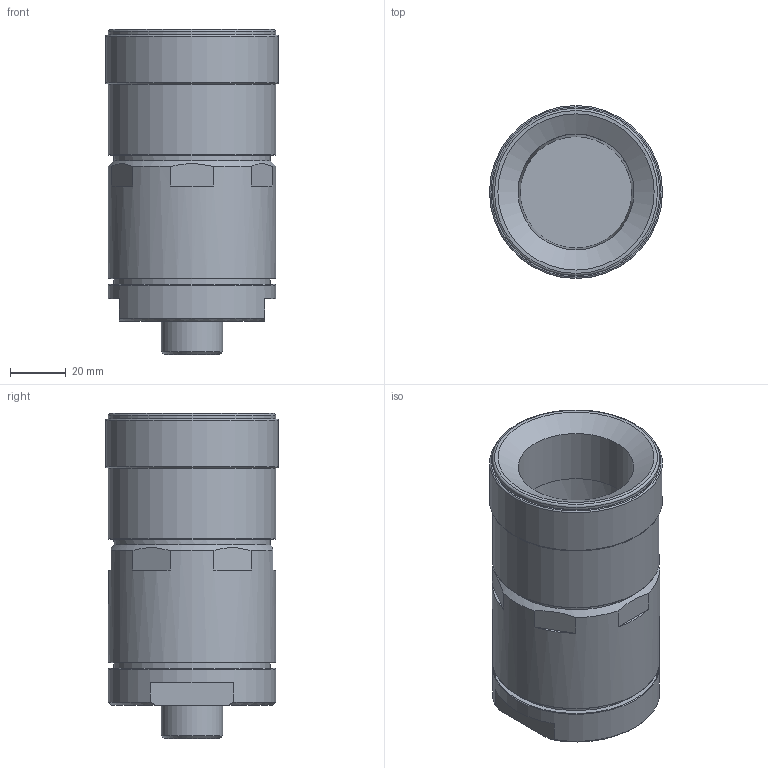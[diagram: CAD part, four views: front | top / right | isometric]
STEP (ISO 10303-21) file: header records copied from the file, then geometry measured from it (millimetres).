
FILE_DESCRIPTION(('STEP AP203'),'1');
FILE_NAME('SGC-40J-ZZ-T(.stp','2021-06-21T07:36:33',(' '),(' '),'Spatial InterOp 3D',' ',' ');
FILE_SCHEMA(('CONFIG_CONTROL_DESIGN'));
Length unit declared in the file: millimetre
Products named in the file (1): 1
Bounding box: 62 x 62 x 116.5 mm (x, y, z)
Volume: 167878.6 mm3; surface area: 40185.7 mm2
Topology: 1 solids, 1 shells, 55 faces, 116 edges, 73 vertices
Faces by surface type: plane 28, cylinder 12, cone 10, torus 5
Full cylindrical faces by diameter (mm): 11.7 x1, 17.5 x1, 22 x1, 40 x1, 41.5 x1, 56 x2, 60 x4, 62 x1
Entity records: 1416 total; most frequent: CARTESIAN_POINT 280, DIRECTION 242, ORIENTED_EDGE 176, AXIS2_PLACEMENT_3D 108, EDGE_LOOP 90, EDGE_CURVE 88, FACE_OUTER_BOUND 72, VERTEX_POINT 70
